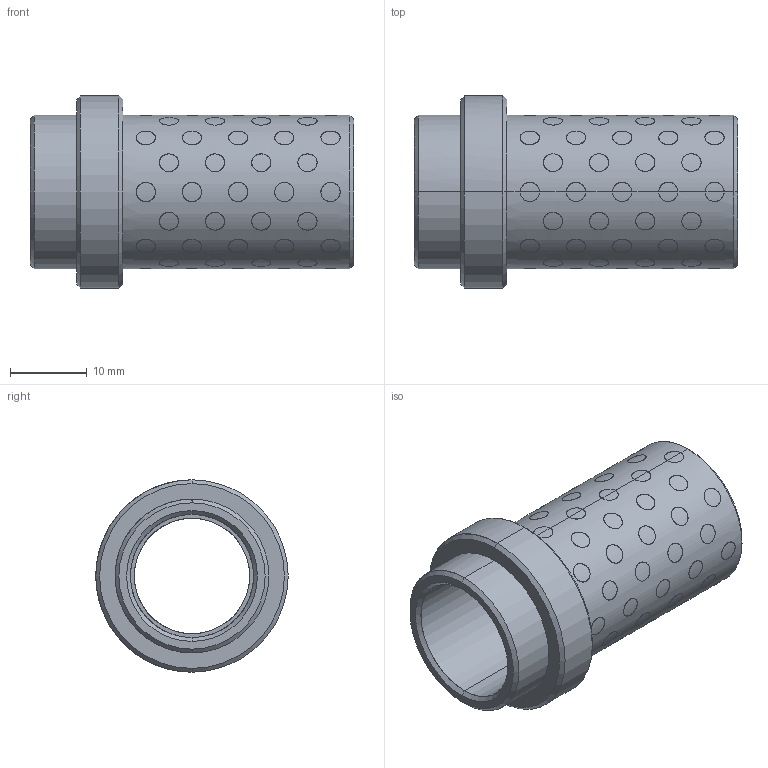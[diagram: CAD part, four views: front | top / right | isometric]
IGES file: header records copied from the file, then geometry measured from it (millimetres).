
Start section: START RECORD GO HERE.
Global section: file name: G31215036.igs; native system: DASSAULT SYSTEMES CATIA V5 R20 - www.3ds.com; preprocessor: CATIA Version 5 Release 20 ; author: r.borello; organization: CFTORINO; date: 20190624.121901; units: millimetre
Bounding box: 42 x 25 x 25 mm (x, y, z)
Surface area: 8091.7 mm2 (no closed solid volume)
Topology: 0 solids, 0 shells, 479 faces, 2076 edges, 2076 vertices
Faces by surface type: revolution 474, plane 5
